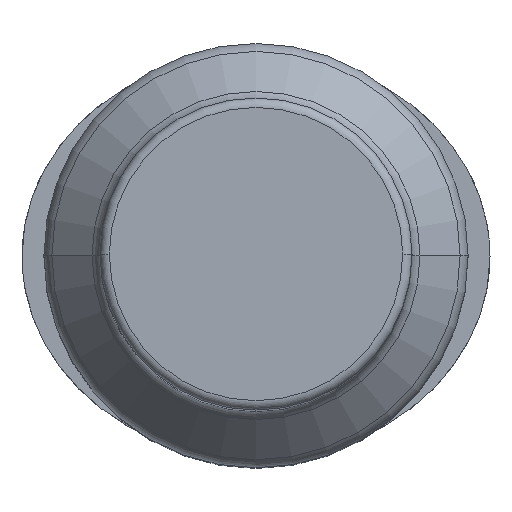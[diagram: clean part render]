
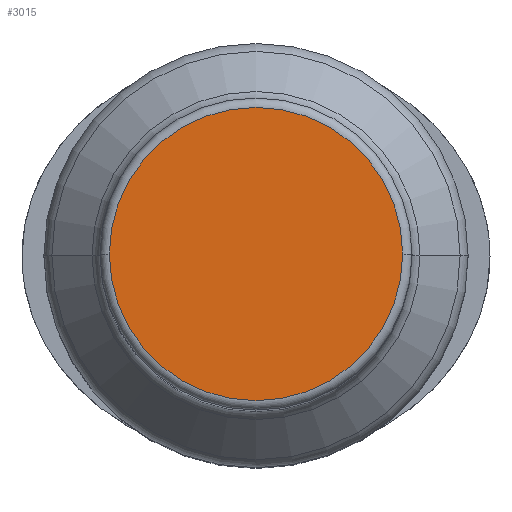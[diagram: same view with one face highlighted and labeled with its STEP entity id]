
A CAD part, top view. The second image highlights one B-rep face of the part: STEP entity #3015.
In plain terms, the highlighted planar face has unit normal (0, 0, 1).
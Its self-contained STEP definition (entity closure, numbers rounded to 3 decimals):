
#1125=CARTESIAN_POINT('',(0.,0.,45.6));
#1126=DIRECTION('',(0.,0.,-1.));
#1127=DIRECTION('',(-1.,0.,0.));
#1128=AXIS2_PLACEMENT_3D('',#1125,#1126,#1127);
#1130=CARTESIAN_POINT('',(0.,0.,45.6));
#1131=DIRECTION('',(0.,0.,-1.));
#1132=DIRECTION('',(1.,0.,0.));
#1133=AXIS2_PLACEMENT_3D('',#1130,#1131,#1132);
#1452=CARTESIAN_POINT('',(4.7,0.,45.6));
#1453=VERTEX_POINT('',#1452);
#1454=CARTESIAN_POINT('',(-4.7,0.,45.6));
#1455=VERTEX_POINT('',#1454);
#3006=CARTESIAN_POINT('',(-2.5,0.,45.6));
#3007=DIRECTION('',(0.,0.,1.));
#3008=DIRECTION('',(-1.,0.,0.));
#3009=AXIS2_PLACEMENT_3D('',#3006,#3007,#3008);
#3010=PLANE('',#3009);
#3011=ORIENTED_EDGE('',*,*,#2999,.T.);
#3012=ORIENTED_EDGE('',*,*,#2988,.T.);
#3013=EDGE_LOOP('',(#3011,#3012));
#3014=FACE_OUTER_BOUND('',#3013,.F.);
#1129=CIRCLE('',#1128,4.7);
#1134=CIRCLE('',#1133,4.7);
#2988=EDGE_CURVE('',#1453,#1455,#1134,.T.);
#2999=EDGE_CURVE('',#1455,#1453,#1129,.T.);
#3015=ADVANCED_FACE('',(#3014),#3010,.T.);
